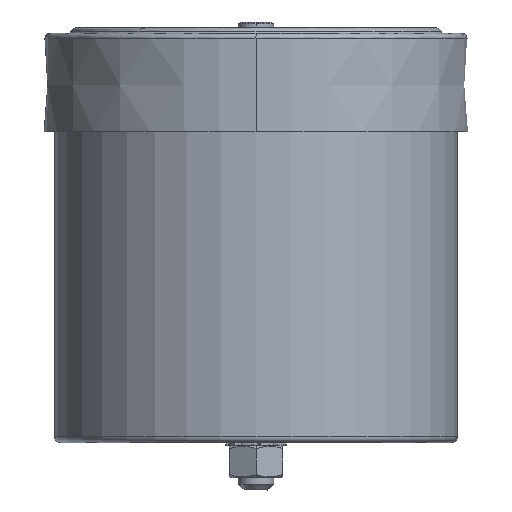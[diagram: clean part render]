
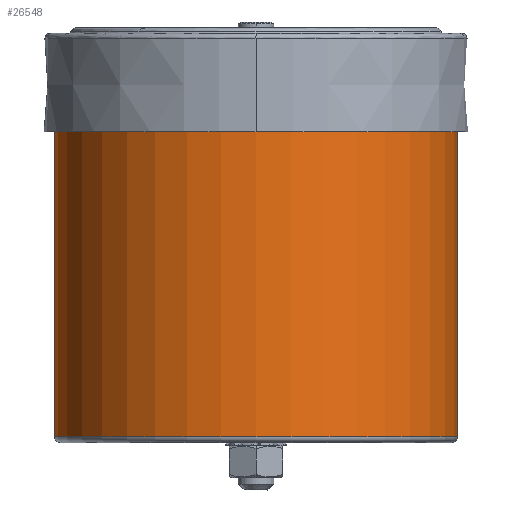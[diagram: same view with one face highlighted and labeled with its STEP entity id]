
A CAD part, left-side view. The second image highlights one B-rep face of the part: STEP entity #26548.
In plain terms, the highlighted cylindrical face has radius 68 mm (diameter 136 mm), a partial arc.
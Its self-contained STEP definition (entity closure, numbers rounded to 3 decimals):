
#518 = DIRECTION ( 'NONE',  ( 0., 0., 1. ) ) ;
#1678 = LINE ( 'NONE', #4154, #22232 ) ;
#2178 = DIRECTION ( 'NONE',  ( 0., 1., 0. ) ) ;
#2920 = DIRECTION ( 'NONE',  ( 0., -1., 0. ) ) ;
#3082 = AXIS2_PLACEMENT_3D ( 'NONE', #12343, #10186, #25266 ) ;
#3223 = EDGE_CURVE ( 'NONE', #21647, #11694, #3301, .T. ) ;
#3301 = LINE ( 'NONE', #18406, #26163 ) ;
#3867 = CARTESIAN_POINT ( 'NONE',  ( 0., -68., 0.9 ) ) ;
#4154 = CARTESIAN_POINT ( 'NONE',  ( 0., 68., -133. ) ) ;
#5020 = CIRCLE ( 'NONE', #3082, 68. ) ;
#7133 = CARTESIAN_POINT ( 'NONE',  ( 0., -68., -131. ) ) ;
#7950 = ORIENTED_EDGE ( 'NONE', *, *, #23385, .T. ) ;
#8476 = DIRECTION ( 'NONE',  ( 0., 0., -1. ) ) ;
#9057 = CARTESIAN_POINT ( 'NONE',  ( 0., 0., -131. ) ) ;
#9276 = EDGE_LOOP ( 'NONE', ( #10005, #7950, #27428, #10068, #27960 ) ) ;
#9338 = CYLINDRICAL_SURFACE ( 'NONE', #11975, 68. ) ;
#10005 = ORIENTED_EDGE ( 'NONE', *, *, #20907, .T. ) ;
#10068 = ORIENTED_EDGE ( 'NONE', *, *, #18867, .T. ) ;
#10186 = DIRECTION ( 'NONE',  ( 0., 0., -1. ) ) ;
#10723 = AXIS2_PLACEMENT_3D ( 'NONE', #9057, #518, #15560 ) ;
#11694 = VERTEX_POINT ( 'NONE', #7133 ) ;
#11975 = AXIS2_PLACEMENT_3D ( 'NONE', #26613, #22401, #2920 ) ;
#12307 = VERTEX_POINT ( 'NONE', #15916 ) ;
#12343 = CARTESIAN_POINT ( 'NONE',  ( 0., 0., 0.9 ) ) ;
#12702 = CARTESIAN_POINT ( 'NONE',  ( 0., 0., 0.9 ) ) ;
#13480 = CARTESIAN_POINT ( 'NONE',  ( 0., 68., -131. ) ) ;
#14726 = DIRECTION ( 'NONE',  ( 0., 0., -1. ) ) ;
#15560 = DIRECTION ( 'NONE',  ( 0., -1., 0. ) ) ;
#15916 = CARTESIAN_POINT ( 'NONE',  ( 0., 68., 0.9 ) ) ;
#17917 = CARTESIAN_POINT ( 'NONE',  ( -68., 0., 0.9 ) ) ;
#18406 = CARTESIAN_POINT ( 'NONE',  ( 0., -68., -133. ) ) ;
#18451 = CIRCLE ( 'NONE', #20347, 68. ) ;
#18867 = EDGE_CURVE ( 'NONE', #24402, #11694, #19871, .T. ) ;
#19871 = CIRCLE ( 'NONE', #10723, 68. ) ;
#20347 = AXIS2_PLACEMENT_3D ( 'NONE', #12702, #25974, #2178 ) ;
#20816 = FACE_OUTER_BOUND ( 'NONE', #9276, .T. ) ;
#20907 = EDGE_CURVE ( 'NONE', #21647, #25580, #18451, .T. ) ;
#21647 = VERTEX_POINT ( 'NONE', #3867 ) ;
#22232 = VECTOR ( 'NONE', #8476, 1000. ) ;
#22401 = DIRECTION ( 'NONE',  ( 0., 0., -1. ) ) ;
#23385 = EDGE_CURVE ( 'NONE', #25580, #12307, #5020, .T. ) ;
#23544 = EDGE_CURVE ( 'NONE', #12307, #24402, #1678, .T. ) ;
#24402 = VERTEX_POINT ( 'NONE', #13480 ) ;
#25266 = DIRECTION ( 'NONE',  ( 0., 1., 0. ) ) ;
#25580 = VERTEX_POINT ( 'NONE', #17917 ) ;
#25974 = DIRECTION ( 'NONE',  ( 0., 0., -1. ) ) ;
#26163 = VECTOR ( 'NONE', #14726, 1000. ) ;
#26548 = ADVANCED_FACE ( 'NONE', ( #20816 ), #9338, .T. ) ;
#26613 = CARTESIAN_POINT ( 'NONE',  ( 0., 0., -133. ) ) ;
#27428 = ORIENTED_EDGE ( 'NONE', *, *, #23544, .T. ) ;
#27960 = ORIENTED_EDGE ( 'NONE', *, *, #3223, .F. ) ;
